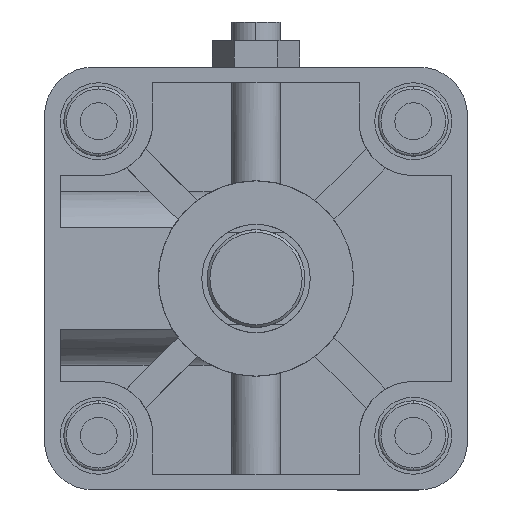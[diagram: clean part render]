
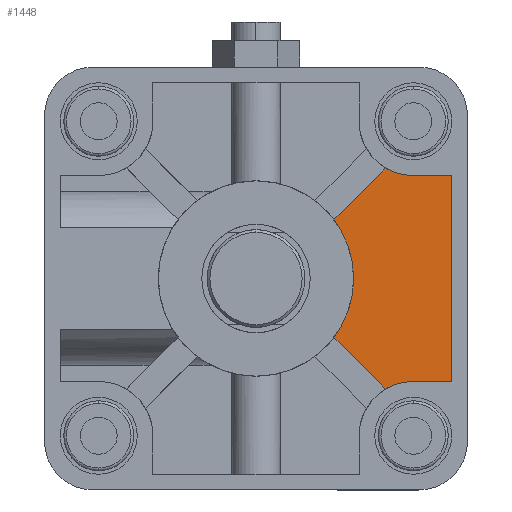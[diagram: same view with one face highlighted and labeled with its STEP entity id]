
A CAD part, left-side view. The second image highlights one B-rep face of the part: STEP entity #1448.
In plain terms, the highlighted planar face has unit normal (-1, 0, 0) as drawn and (1, 0, 0) by its records, which use the part's own axes.
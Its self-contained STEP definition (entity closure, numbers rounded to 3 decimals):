
#173 = DIRECTION ( 'NONE',  ( 0., -1., 0. ) ) ;
#244 = VERTEX_POINT ( 'NONE', #7905 ) ;
#288 = VECTOR ( 'NONE', #6605, 1000. ) ;
#396 = AXIS2_PLACEMENT_3D ( 'NONE', #7525, #4694, #415 ) ;
#412 = ORIENTED_EDGE ( 'NONE', *, *, #3290, .F. ) ;
#415 = DIRECTION ( 'NONE',  ( 0., 0., -1. ) ) ;
#477 = CIRCLE ( 'NONE', #8052, 18. ) ;
#823 = CARTESIAN_POINT ( 'NONE',  ( -6., 0., 0. ) ) ;
#874 = DIRECTION ( 'NONE',  ( 0., 0., -1. ) ) ;
#932 = CARTESIAN_POINT ( 'NONE',  ( -6., -36.1, 19. ) ) ;
#1033 = VERTEX_POINT ( 'NONE', #4604 ) ;
#1287 = CARTESIAN_POINT ( 'NONE',  ( -6., -1.768, 1.768 ) ) ;
#1340 = LINE ( 'NONE', #8648, #7196 ) ;
#1355 = VERTEX_POINT ( 'NONE', #932 ) ;
#1448 = ADVANCED_FACE ( 'NONE', ( #1717 ), #2862, .T. ) ;
#1565 = AXIS2_PLACEMENT_3D ( 'NONE', #4264, #3796, #874 ) ;
#1717 = FACE_OUTER_BOUND ( 'NONE', #5683, .T. ) ;
#1822 = VERTEX_POINT ( 'NONE', #4230 ) ;
#2024 = EDGE_CURVE ( 'NONE', #2965, #4529, #1340, .T. ) ;
#2042 = CIRCLE ( 'NONE', #396, 10. ) ;
#2209 = ORIENTED_EDGE ( 'NONE', *, *, #7516, .T. ) ;
#2335 = CARTESIAN_POINT ( 'NONE',  ( -6., -36.1, 0. ) ) ;
#2457 = LINE ( 'NONE', #6753, #8356 ) ;
#2483 = CARTESIAN_POINT ( 'NONE',  ( -6., -29., -19. ) ) ;
#2566 = CARTESIAN_POINT ( 'NONE',  ( -6., -36.1, -19. ) ) ;
#2855 = CARTESIAN_POINT ( 'NONE',  ( -6., -14.372, 10.837 ) ) ;
#2862 = PLANE ( 'NONE',  #4009 ) ;
#2965 = VERTEX_POINT ( 'NONE', #2483 ) ;
#3290 = EDGE_CURVE ( 'NONE', #4038, #1822, #6485, .T. ) ;
#3427 = ORIENTED_EDGE ( 'NONE', *, *, #7546, .F. ) ;
#3796 = DIRECTION ( 'NONE',  ( 1., 0., 0. ) ) ;
#3864 = ORIENTED_EDGE ( 'NONE', *, *, #4268, .T. ) ;
#4009 = AXIS2_PLACEMENT_3D ( 'NONE', #823, #4054, #5999 ) ;
#4038 = VERTEX_POINT ( 'NONE', #7631 ) ;
#4054 = DIRECTION ( 'NONE',  ( 1., 0., 0. ) ) ;
#4095 = VECTOR ( 'NONE', #7528, 1000. ) ;
#4157 = VERTEX_POINT ( 'NONE', #2855 ) ;
#4230 = CARTESIAN_POINT ( 'NONE',  ( -6., -23.921, 20.386 ) ) ;
#4264 = CARTESIAN_POINT ( 'NONE',  ( -6., -29., 29. ) ) ;
#4268 = EDGE_CURVE ( 'NONE', #244, #4157, #477, .T. ) ;
#4283 = EDGE_CURVE ( 'NONE', #244, #1033, #6770, .T. ) ;
#4529 = VERTEX_POINT ( 'NONE', #2566 ) ;
#4604 = CARTESIAN_POINT ( 'NONE',  ( -6., -23.921, -20.386 ) ) ;
#4694 = DIRECTION ( 'NONE',  ( -1., 0., 0. ) ) ;
#4826 = DIRECTION ( 'NONE',  ( 0., 0., -1. ) ) ;
#4836 = ORIENTED_EDGE ( 'NONE', *, *, #6672, .T. ) ;
#5125 = CARTESIAN_POINT ( 'NONE',  ( -6., -1.768, -1.768 ) ) ;
#5683 = EDGE_LOOP ( 'NONE', ( #3427, #412, #6651, #2209, #8636, #4836, #6916, #3864 ) ) ;
#5710 = DIRECTION ( 'NONE',  ( -1., 0., 0. ) ) ;
#5854 = DIRECTION ( 'NONE',  ( 0., -0.707, -0.707 ) ) ;
#5999 = DIRECTION ( 'NONE',  ( 0., 0., -1. ) ) ;
#6209 = VECTOR ( 'NONE', #5854, 1000. ) ;
#6485 = CIRCLE ( 'NONE', #1565, 10. ) ;
#6605 = DIRECTION ( 'NONE',  ( 0., 0.707, -0.707 ) ) ;
#6623 = LINE ( 'NONE', #2335, #4095 ) ;
#6651 = ORIENTED_EDGE ( 'NONE', *, *, #7081, .T. ) ;
#6672 = EDGE_CURVE ( 'NONE', #2965, #1033, #2042, .T. ) ;
#6753 = CARTESIAN_POINT ( 'NONE',  ( -6., 0., 19. ) ) ;
#6770 = LINE ( 'NONE', #1287, #6209 ) ;
#6916 = ORIENTED_EDGE ( 'NONE', *, *, #4283, .F. ) ;
#7046 = LINE ( 'NONE', #5125, #288 ) ;
#7081 = EDGE_CURVE ( 'NONE', #4038, #1355, #2457, .T. ) ;
#7196 = VECTOR ( 'NONE', #173, 1000. ) ;
#7516 = EDGE_CURVE ( 'NONE', #1355, #4529, #6623, .T. ) ;
#7525 = CARTESIAN_POINT ( 'NONE',  ( -6., -29., -29. ) ) ;
#7528 = DIRECTION ( 'NONE',  ( 0., 0., -1. ) ) ;
#7546 = EDGE_CURVE ( 'NONE', #1822, #4157, #7046, .T. ) ;
#7631 = CARTESIAN_POINT ( 'NONE',  ( -6., -29., 19. ) ) ;
#7805 = DIRECTION ( 'NONE',  ( 0., -1., 0. ) ) ;
#7905 = CARTESIAN_POINT ( 'NONE',  ( -6., -14.372, -10.837 ) ) ;
#8052 = AXIS2_PLACEMENT_3D ( 'NONE', #9185, #5710, #4826 ) ;
#8356 = VECTOR ( 'NONE', #7805, 1000. ) ;
#8636 = ORIENTED_EDGE ( 'NONE', *, *, #2024, .F. ) ;
#8648 = CARTESIAN_POINT ( 'NONE',  ( -6., 0., -19. ) ) ;
#9185 = CARTESIAN_POINT ( 'NONE',  ( -6., 0., 0. ) ) ;
